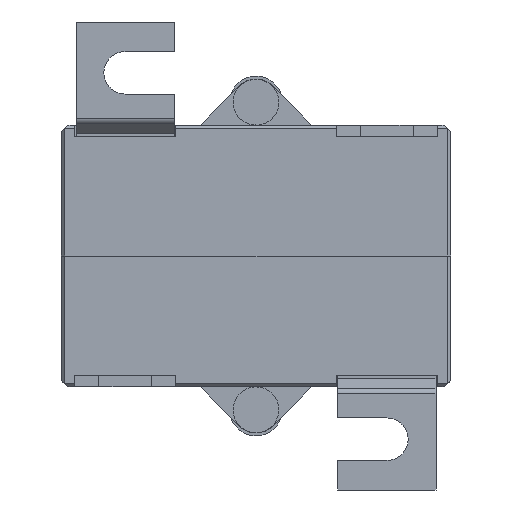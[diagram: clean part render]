
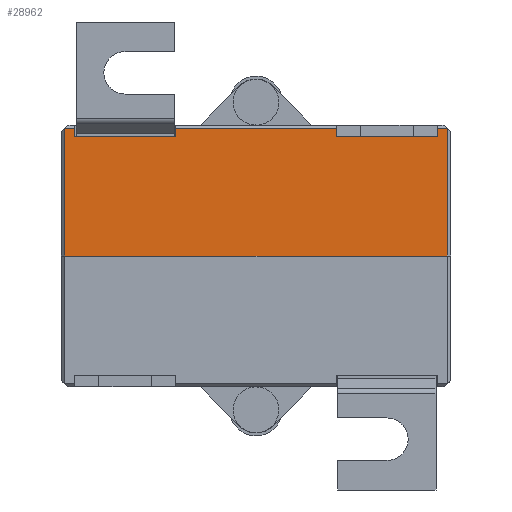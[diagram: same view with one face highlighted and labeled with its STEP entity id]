
A CAD part, front view. The second image highlights one B-rep face of the part: STEP entity #28962.
In plain terms, the highlighted planar face has unit normal (0, -1, 0).
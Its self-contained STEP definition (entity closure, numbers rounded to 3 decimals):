
#827=PLANE('',#30902);
#2202=FACE_OUTER_BOUND('',#3808,.T.);
#3808=EDGE_LOOP('',(#20384,#20385,#20386,#20387,#20388,#20389,#20390,#20391,
#20392,#20393,#20394,#20395));
#6477=LINE('',#39356,#9659);
#6480=LINE('',#39368,#9662);
#6487=LINE('',#39382,#9669);
#6488=LINE('',#39384,#9670);
#6489=LINE('',#39386,#9671);
#6490=LINE('',#39388,#9672);
#6491=LINE('',#39390,#9673);
#6492=LINE('',#39392,#9674);
#6493=LINE('',#39394,#9675);
#6494=LINE('',#39396,#9676);
#6495=LINE('',#39398,#9677);
#6496=LINE('',#39399,#9678);
#9659=VECTOR('',#32812,10.);
#9662=VECTOR('',#32823,10.);
#9669=VECTOR('',#32834,10.);
#9670=VECTOR('',#32835,10.);
#9671=VECTOR('',#32836,10.);
#9672=VECTOR('',#32837,10.);
#9673=VECTOR('',#32838,10.);
#9674=VECTOR('',#32839,10.);
#9675=VECTOR('',#32840,10.);
#9676=VECTOR('',#32841,10.);
#9677=VECTOR('',#32842,10.);
#9678=VECTOR('',#32843,10.);
#12821=VERTEX_POINT('',#39298);
#12849=VERTEX_POINT('',#39354);
#12854=VERTEX_POINT('',#39367);
#12859=VERTEX_POINT('',#39381);
#12860=VERTEX_POINT('',#39383);
#12861=VERTEX_POINT('',#39385);
#12862=VERTEX_POINT('',#39387);
#12863=VERTEX_POINT('',#39389);
#12864=VERTEX_POINT('',#39391);
#12865=VERTEX_POINT('',#39393);
#12866=VERTEX_POINT('',#39395);
#12867=VERTEX_POINT('',#39397);
#15803=EDGE_CURVE('',#12849,#12821,#6477,.T.);
#15809=EDGE_CURVE('',#12821,#12854,#6480,.T.);
#15816=EDGE_CURVE('',#12859,#12849,#6487,.T.);
#15817=EDGE_CURVE('',#12860,#12859,#6488,.T.);
#15818=EDGE_CURVE('',#12860,#12861,#6489,.T.);
#15819=EDGE_CURVE('',#12861,#12862,#6490,.T.);
#15820=EDGE_CURVE('',#12862,#12863,#6491,.T.);
#15821=EDGE_CURVE('',#12864,#12863,#6492,.T.);
#15822=EDGE_CURVE('',#12864,#12865,#6493,.T.);
#15823=EDGE_CURVE('',#12865,#12866,#6494,.T.);
#15824=EDGE_CURVE('',#12866,#12867,#6495,.T.);
#15825=EDGE_CURVE('',#12854,#12867,#6496,.T.);
#20384=ORIENTED_EDGE('',*,*,#15809,.F.);
#20385=ORIENTED_EDGE('',*,*,#15803,.F.);
#20386=ORIENTED_EDGE('',*,*,#15816,.F.);
#20387=ORIENTED_EDGE('',*,*,#15817,.F.);
#20388=ORIENTED_EDGE('',*,*,#15818,.T.);
#20389=ORIENTED_EDGE('',*,*,#15819,.T.);
#20390=ORIENTED_EDGE('',*,*,#15820,.T.);
#20391=ORIENTED_EDGE('',*,*,#15821,.F.);
#20392=ORIENTED_EDGE('',*,*,#15822,.T.);
#20393=ORIENTED_EDGE('',*,*,#15823,.T.);
#20394=ORIENTED_EDGE('',*,*,#15824,.T.);
#20395=ORIENTED_EDGE('',*,*,#15825,.F.);
#28962=ADVANCED_FACE('',(#2202),#827,.T.);
#30902=AXIS2_PLACEMENT_3D('',#39380,#32832,#32833);
#32812=DIRECTION('',(1.,0.,0.));
#32823=DIRECTION('',(0.,0.,-1.));
#32832=DIRECTION('center_axis',(0.,-1.,0.));
#32833=DIRECTION('ref_axis',(1.,0.,0.));
#32834=DIRECTION('',(0.,0.,1.));
#32835=DIRECTION('',(-1.,0.,0.));
#32836=DIRECTION('',(0.,0.,1.));
#32837=DIRECTION('',(1.,0.,0.));
#32838=DIRECTION('',(0.,0.,-1.));
#32839=DIRECTION('',(-1.,0.,0.));
#32840=DIRECTION('',(0.,0.,1.));
#32841=DIRECTION('',(1.,0.,0.));
#32842=DIRECTION('',(0.,0.,-1.));
#32843=DIRECTION('',(-1.,0.,0.));
#39298=CARTESIAN_POINT('',(29.25,0.,20.));
#39354=CARTESIAN_POINT('',(-29.25,0.,20.));
#39356=CARTESIAN_POINT('',(-29.75,0.,20.));
#39367=CARTESIAN_POINT('',(29.25,0.,0.5));
#39368=CARTESIAN_POINT('',(29.25,0.,0.));
#39380=CARTESIAN_POINT('Origin',(-29.75,0.,0.));
#39381=CARTESIAN_POINT('',(-29.25,0.,0.5));
#39382=CARTESIAN_POINT('',(-29.25,0.,0.));
#39383=CARTESIAN_POINT('',(-27.7,0.,0.5));
#39384=CARTESIAN_POINT('',(-14.875,0.,0.5));
#39385=CARTESIAN_POINT('',(-27.7,0.,1.8));
#39386=CARTESIAN_POINT('',(-27.7,0.,0.));
#39387=CARTESIAN_POINT('',(-12.3,0.,1.8));
#39388=CARTESIAN_POINT('',(-24.875,0.,1.8));
#39389=CARTESIAN_POINT('',(-12.3,0.,0.5));
#39390=CARTESIAN_POINT('',(-12.3,0.,0.));
#39391=CARTESIAN_POINT('',(12.3,0.,0.5));
#39392=CARTESIAN_POINT('',(-14.875,0.,0.5));
#39393=CARTESIAN_POINT('',(12.3,0.,1.8));
#39394=CARTESIAN_POINT('',(12.3,0.,0.));
#39395=CARTESIAN_POINT('',(27.7,0.,1.8));
#39396=CARTESIAN_POINT('',(-4.875,0.,1.8));
#39397=CARTESIAN_POINT('',(27.7,0.,0.5));
#39398=CARTESIAN_POINT('',(27.7,0.,0.));
#39399=CARTESIAN_POINT('',(-14.875,0.,0.5));
